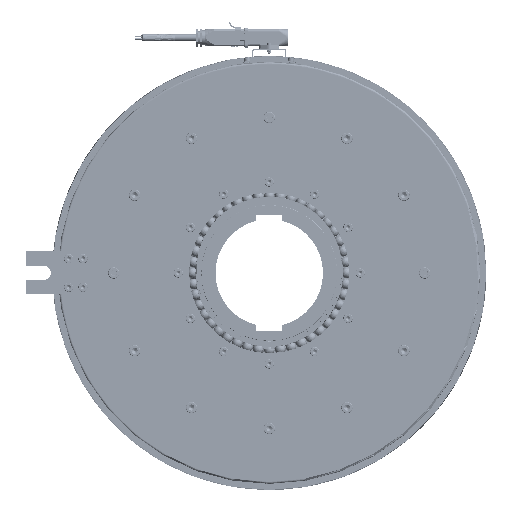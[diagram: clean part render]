
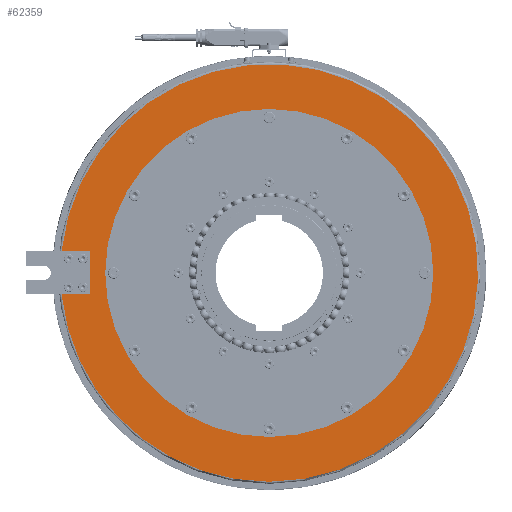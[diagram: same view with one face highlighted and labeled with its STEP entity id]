
A CAD part, left-side view. The second image highlights one B-rep face of the part: STEP entity #62359.
In plain terms, the highlighted planar face has unit normal (-1, 0, 0).
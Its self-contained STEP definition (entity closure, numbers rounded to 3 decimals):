
#1590=FACE_BOUND('',#9920,.T.);
#2934=PLANE('',#66980);
#6525=FACE_OUTER_BOUND('',#9919,.T.);
#9919=EDGE_LOOP('',(#48908,#48909,#48910,#48911,#48912));
#9920=EDGE_LOOP('',(#48913,#48914));
#13202=CIRCLE('',#66981,291.5);
#13203=CIRCLE('',#66982,291.5);
#13204=CIRCLE('',#66983,229.);
#13205=CIRCLE('',#66984,229.);
#17507=LINE('',#94979,#21336);
#17511=LINE('',#94986,#21340);
#17514=LINE('',#94991,#21343);
#21336=VECTOR('',#76321,10.);
#21340=VECTOR('',#76327,10.);
#21343=VECTOR('',#76332,10.);
#25031=VERTEX_POINT('',#94976);
#25032=VERTEX_POINT('',#94978);
#25034=VERTEX_POINT('',#94984);
#25035=VERTEX_POINT('',#94989);
#26594=VERTEX_POINT('',#119376);
#26595=VERTEX_POINT('',#119379);
#26596=VERTEX_POINT('',#119380);
#32527=EDGE_CURVE('',#25032,#25031,#17507,.T.);
#32531=EDGE_CURVE('',#25031,#25034,#17511,.T.);
#32534=EDGE_CURVE('',#25034,#25035,#17514,.T.);
#34599=EDGE_CURVE('',#26594,#25035,#13202,.T.);
#34600=EDGE_CURVE('',#25032,#26594,#13203,.T.);
#34601=EDGE_CURVE('',#26595,#26596,#13204,.T.);
#34602=EDGE_CURVE('',#26596,#26595,#13205,.T.);
#48908=ORIENTED_EDGE('',*,*,#32534,.T.);
#48909=ORIENTED_EDGE('',*,*,#34599,.F.);
#48910=ORIENTED_EDGE('',*,*,#34600,.F.);
#48911=ORIENTED_EDGE('',*,*,#32527,.T.);
#48912=ORIENTED_EDGE('',*,*,#32531,.T.);
#48913=ORIENTED_EDGE('',*,*,#34601,.T.);
#48914=ORIENTED_EDGE('',*,*,#34602,.T.);
#62359=ADVANCED_FACE('',(#6525,#1590),#2934,.T.);
#66980=AXIS2_PLACEMENT_3D('',#119375,#79429,#79430);
#66981=AXIS2_PLACEMENT_3D('',#119377,#79431,#79432);
#66982=AXIS2_PLACEMENT_3D('',#119378,#79433,#79434);
#66983=AXIS2_PLACEMENT_3D('',#119381,#79435,#79436);
#66984=AXIS2_PLACEMENT_3D('',#119382,#79437,#79438);
#76321=DIRECTION('',(0.,-1.,0.));
#76327=DIRECTION('',(0.,0.,-1.));
#76332=DIRECTION('',(0.,1.,0.));
#79429=DIRECTION('center_axis',(-1.,0.,0.));
#79430=DIRECTION('ref_axis',(0.,0.,
1.));
#79431=DIRECTION('center_axis',(1.,0.,0.));
#79432=DIRECTION('ref_axis',(0.,-1.,0.));
#79433=DIRECTION('center_axis',(1.,0.,0.));
#79434=DIRECTION('ref_axis',(0.,-1.,0.));
#79435=DIRECTION('center_axis',(1.,0.,0.));
#79436=DIRECTION('ref_axis',(0.,1.,0.));
#79437=DIRECTION('center_axis',(1.,0.,0.));
#79438=DIRECTION('ref_axis',(0.,1.,0.));
#94976=CARTESIAN_POINT('',(-145.5,250.,30.));
#94978=CARTESIAN_POINT('',(-145.5,289.952,30.));
#94979=CARTESIAN_POINT('',(-145.5,293.625,30.));
#94984=CARTESIAN_POINT('',(-145.5,250.,-30.));
#94986=CARTESIAN_POINT('',(-145.5,250.,15.));
#94989=CARTESIAN_POINT('',(-145.5,289.952,-30.));
#94991=CARTESIAN_POINT('',(-145.5,248.625,-30.));
#119375=CARTESIAN_POINT('Origin',(-145.5,247.25,0.));
#119376=CARTESIAN_POINT('',(-145.5,0.,-291.5));
#119377=CARTESIAN_POINT('Origin',(-145.5,0.,0.));
#119378=CARTESIAN_POINT('Origin',(-145.5,0.,0.));
#119379=CARTESIAN_POINT('',(-145.5,229.,0.));
#119380=CARTESIAN_POINT('',(-145.5,-229.,0.));
#119381=CARTESIAN_POINT('Origin',(-145.5,0.,0.));
#119382=CARTESIAN_POINT('Origin',(-145.5,0.,0.));
